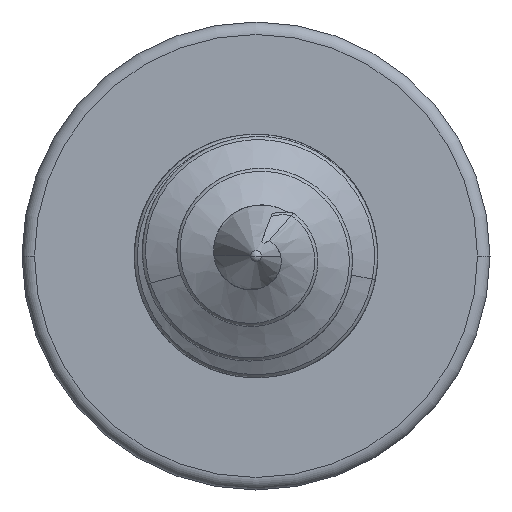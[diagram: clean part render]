
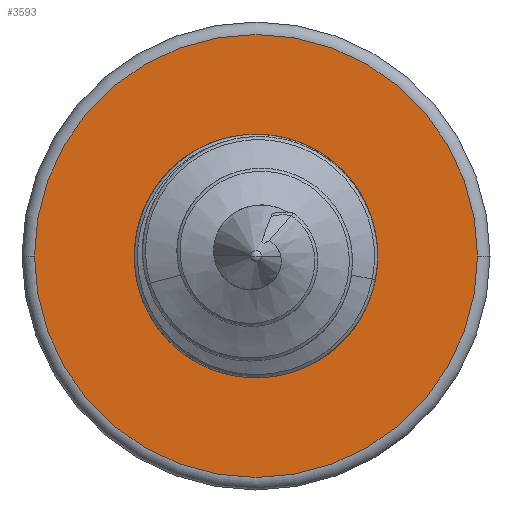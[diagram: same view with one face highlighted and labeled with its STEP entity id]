
A CAD part, front view. The second image highlights one B-rep face of the part: STEP entity #3593.
In plain terms, the highlighted planar face has unit normal (0, -1, 0).
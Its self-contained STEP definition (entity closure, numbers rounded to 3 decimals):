
#130=CARTESIAN_POINT('',(0.,-2.8,0.));
#131=DIRECTION('',(0.,-1.,0.));
#132=DIRECTION('',(-1.,0.,0.));
#133=AXIS2_PLACEMENT_3D('',#130,#131,#132);
#135=CARTESIAN_POINT('',(0.,-2.8,0.));
#136=DIRECTION('',(0.,-1.,0.));
#137=DIRECTION('',(1.,0.,0.));
#138=AXIS2_PLACEMENT_3D('',#135,#136,#137);
#140=CARTESIAN_POINT('',(0.,-2.8,0.));
#141=DIRECTION('',(0.,1.,0.));
#142=DIRECTION('',(1.,0.,0.));
#143=AXIS2_PLACEMENT_3D('',#140,#141,#142);
#145=CARTESIAN_POINT('',(0.,-2.8,0.));
#146=DIRECTION('',(0.,1.,0.));
#147=DIRECTION('',(-1.,0.,0.));
#148=AXIS2_PLACEMENT_3D('',#145,#146,#147);
#2852=CARTESIAN_POINT('',(-1.629,-2.8,0.));
#2853=VERTEX_POINT('',#2852);
#2854=CARTESIAN_POINT('',(1.629,-2.8,0.));
#2855=VERTEX_POINT('',#2854);
#2989=CARTESIAN_POINT('',(-3.55,-2.8,0.));
#2990=CARTESIAN_POINT('',(3.55,-2.8,0.));
#2991=VERTEX_POINT('',#2989);
#2992=VERTEX_POINT('',#2990);
#3578=CARTESIAN_POINT('',(0.,-2.8,0.));
#3579=DIRECTION('',(0.,1.,0.));
#3580=DIRECTION('',(-1.,0.,0.));
#3581=AXIS2_PLACEMENT_3D('',#3578,#3579,#3580);
#3582=PLANE('',#3581);
#3584=ORIENTED_EDGE('',*,*,#3583,.F.);
#3586=ORIENTED_EDGE('',*,*,#3585,.F.);
#3587=EDGE_LOOP('',(#3584,#3586));
#3588=FACE_OUTER_BOUND('',#3587,.F.);
#3589=ORIENTED_EDGE('',*,*,#3571,.F.);
#3590=ORIENTED_EDGE('',*,*,#3146,.F.);
#3591=EDGE_LOOP('',(#3589,#3590));
#3592=FACE_BOUND('',#3591,.F.);
#3593=ADVANCED_FACE('',(#3588,#3592),#3582,.F.);
#134=CIRCLE('',#133,3.55);
#139=CIRCLE('',#138,3.55);
#144=CIRCLE('',#143,1.629);
#149=CIRCLE('',#148,1.629);
#3146=EDGE_CURVE('',#2853,#2855,#149,.T.);
#3571=EDGE_CURVE('',#2855,#2853,#144,.T.);
#3583=EDGE_CURVE('',#2991,#2992,#134,.T.);
#3585=EDGE_CURVE('',#2992,#2991,#139,.T.);
